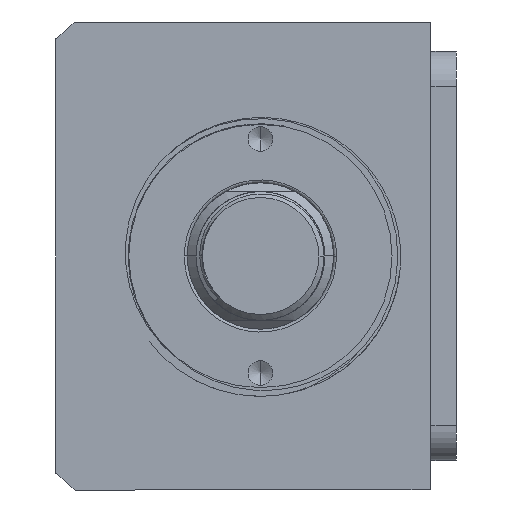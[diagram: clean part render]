
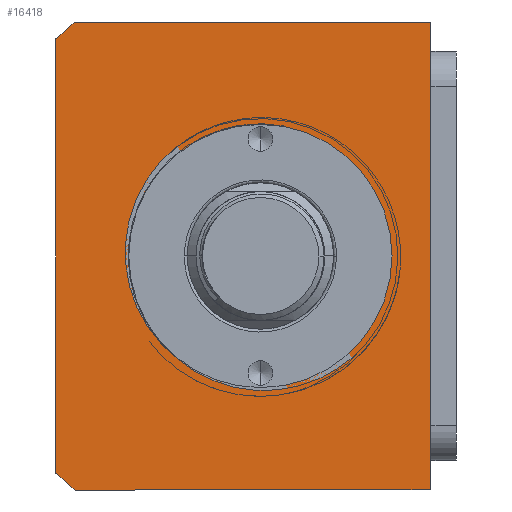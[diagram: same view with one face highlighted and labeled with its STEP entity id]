
A CAD part, front view. The second image highlights one B-rep face of the part: STEP entity #16418.
In plain terms, the highlighted planar face has unit normal (0, -1, 0) as drawn and (0, 0, 1) by its records, which use the part's own axes.
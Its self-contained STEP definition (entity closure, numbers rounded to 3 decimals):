
#389 = DIRECTION ( 'NONE',  ( 1., 0., 0. ) ) ;
#731 = CARTESIAN_POINT ( 'NONE',  ( -40., -11.507, 100. ) ) ;
#784 = CARTESIAN_POINT ( 'NONE',  ( 0., -40.507, 100. ) ) ;
#922 = VECTOR ( 'NONE', #6263, 1000. ) ;
#940 = CIRCLE ( 'NONE', #2754, 22.5 ) ;
#1122 = VERTEX_POINT ( 'NONE', #11852 ) ;
#1216 = DIRECTION ( 'NONE',  ( 1., 0., 0. ) ) ;
#1558 = VERTEX_POINT ( 'NONE', #3414 ) ;
#1655 = CARTESIAN_POINT ( 'NONE',  ( 40., -11.507, 100. ) ) ;
#1933 = FACE_BOUND ( 'NONE', #16228, .T. ) ;
#2101 = LINE ( 'NONE', #12217, #8918 ) ;
#2149 = DIRECTION ( 'NONE',  ( 1., 0., 0. ) ) ;
#2324 = VERTEX_POINT ( 'NONE', #11993 ) ;
#2754 = AXIS2_PLACEMENT_3D ( 'NONE', #5401, #14895, #6781 ) ;
#2883 = VECTOR ( 'NONE', #8833, 1000. ) ;
#3414 = CARTESIAN_POINT ( 'NONE',  ( -22.5, -40.507, 100. ) ) ;
#3532 = AXIS2_PLACEMENT_3D ( 'NONE', #17465, #9370, #1216 ) ;
#3714 = AXIS2_PLACEMENT_3D ( 'NONE', #784, #10296, #2149 ) ;
#3839 = ORIENTED_EDGE ( 'NONE', *, *, #5513, .T. ) ;
#3945 = EDGE_CURVE ( 'NONE', #9030, #7083, #2101, .T. ) ;
#3952 = VERTEX_POINT ( 'NONE', #10976 ) ;
#4359 = PLANE ( 'NONE',  #4376 ) ;
#4376 = AXIS2_PLACEMENT_3D ( 'NONE', #15166, #8523, #389 ) ;
#4485 = CARTESIAN_POINT ( 'NONE',  ( 0., -40.507, 100. ) ) ;
#4786 = ORIENTED_EDGE ( 'NONE', *, *, #15840, .T. ) ;
#4796 = ORIENTED_EDGE ( 'NONE', *, *, #13033, .T. ) ;
#5401 = CARTESIAN_POINT ( 'NONE',  ( 0., -40.507, 100. ) ) ;
#5513 = EDGE_CURVE ( 'NONE', #2324, #1122, #13574, .T. ) ;
#5542 = ORIENTED_EDGE ( 'NONE', *, *, #10985, .F. ) ;
#5563 = FACE_OUTER_BOUND ( 'NONE', #9634, .T. ) ;
#5860 = DIRECTION ( 'NONE',  ( 1., 0., 0. ) ) ;
#6196 = LINE ( 'NONE', #731, #9822 ) ;
#6263 = DIRECTION ( 'NONE',  ( 1., 0., 0. ) ) ;
#6351 = CARTESIAN_POINT ( 'NONE',  ( -40., -11.507, 100. ) ) ;
#6623 = ORIENTED_EDGE ( 'NONE', *, *, #3945, .T. ) ;
#6730 = VERTEX_POINT ( 'NONE', #17392 ) ;
#6781 = DIRECTION ( 'NONE',  ( 1., 0., 0. ) ) ;
#7083 = VERTEX_POINT ( 'NONE', #6351 ) ;
#7726 = LINE ( 'NONE', #17105, #922 ) ;
#8184 = DIRECTION ( 'NONE',  ( -1., 0., 0. ) ) ;
#8341 = CARTESIAN_POINT ( 'NONE',  ( 22.5, -40.507, 100. ) ) ;
#8354 = ORIENTED_EDGE ( 'NONE', *, *, #14115, .F. ) ;
#8523 = DIRECTION ( 'NONE',  ( 0., 0., 1. ) ) ;
#8833 = DIRECTION ( 'NONE',  ( 0., 1., 0. ) ) ;
#8885 = DIRECTION ( 'NONE',  ( 0., -1., 0. ) ) ;
#8918 = VECTOR ( 'NONE', #8184, 1000. ) ;
#9030 = VERTEX_POINT ( 'NONE', #1655 ) ;
#9347 = VERTEX_POINT ( 'NONE', #8341 ) ;
#9370 = DIRECTION ( 'NONE',  ( 0., 0., 1. ) ) ;
#9464 = CIRCLE ( 'NONE', #11746, 22.5 ) ;
#9634 = EDGE_LOOP ( 'NONE', ( #4786, #15603, #10050, #3839, #4796, #6623 ) ) ;
#9822 = VECTOR ( 'NONE', #8885, 1000. ) ;
#10050 = ORIENTED_EDGE ( 'NONE', *, *, #15373, .T. ) ;
#10125 = LINE ( 'NONE', #10199, #2883 ) ;
#10199 = CARTESIAN_POINT ( 'NONE',  ( 40., -11.507, 100. ) ) ;
#10296 = DIRECTION ( 'NONE',  ( 0., 0., 1. ) ) ;
#10744 = EDGE_CURVE ( 'NONE', #6730, #3952, #11160, .T. ) ;
#10976 = CARTESIAN_POINT ( 'NONE',  ( -37.094, -75.507, 100. ) ) ;
#10985 = EDGE_CURVE ( 'NONE', #1558, #9347, #9464, .T. ) ;
#11160 = CIRCLE ( 'NONE', #3532, 51. ) ;
#11746 = AXIS2_PLACEMENT_3D ( 'NONE', #4485, #13965, #5860 ) ;
#11852 = CARTESIAN_POINT ( 'NONE',  ( 40., -72.145, 100. ) ) ;
#11993 = CARTESIAN_POINT ( 'NONE',  ( 37.094, -75.507, 100. ) ) ;
#12217 = CARTESIAN_POINT ( 'NONE',  ( -40., -11.507, 100. ) ) ;
#13033 = EDGE_CURVE ( 'NONE', #1122, #9030, #10125, .T. ) ;
#13574 = CIRCLE ( 'NONE', #3714, 51. ) ;
#13965 = DIRECTION ( 'NONE',  ( 0., 0., 1. ) ) ;
#14115 = EDGE_CURVE ( 'NONE', #9347, #1558, #940, .T. ) ;
#14895 = DIRECTION ( 'NONE',  ( 0., 0., 1. ) ) ;
#15166 = CARTESIAN_POINT ( 'NONE',  ( 0., 0., 100. ) ) ;
#15373 = EDGE_CURVE ( 'NONE', #3952, #2324, #7726, .T. ) ;
#15603 = ORIENTED_EDGE ( 'NONE', *, *, #10744, .T. ) ;
#15840 = EDGE_CURVE ( 'NONE', #7083, #6730, #6196, .T. ) ;
#16228 = EDGE_LOOP ( 'NONE', ( #8354, #5542 ) ) ;
#16418 = ADVANCED_FACE ( 'NONE', ( #1933, #5563 ), #4359, .T. ) ;
#17105 = CARTESIAN_POINT ( 'NONE',  ( -40., -75.507, 100. ) ) ;
#17392 = CARTESIAN_POINT ( 'NONE',  ( -40., -72.145, 100. ) ) ;
#17465 = CARTESIAN_POINT ( 'NONE',  ( 0., -40.507, 100. ) ) ;
